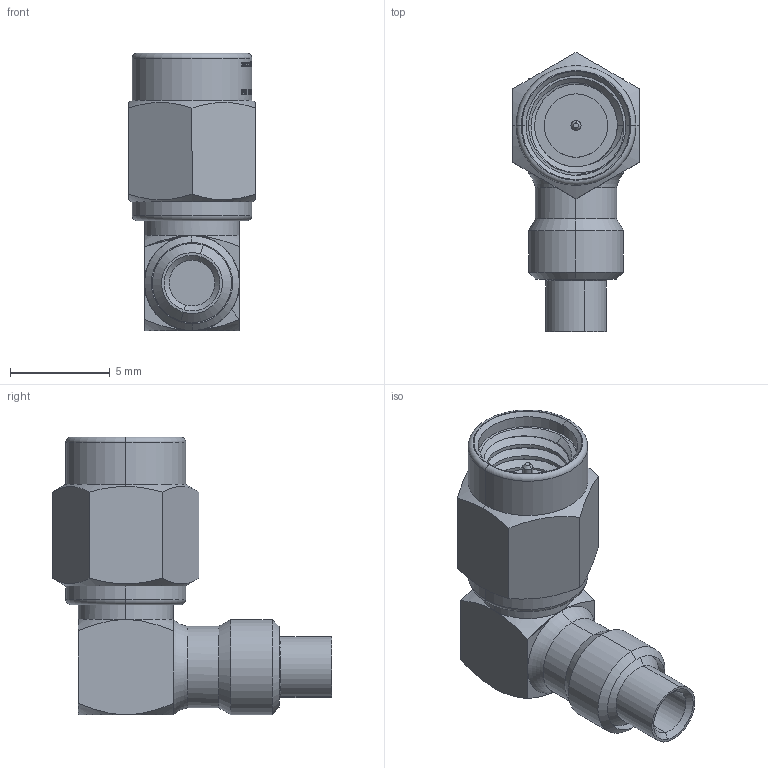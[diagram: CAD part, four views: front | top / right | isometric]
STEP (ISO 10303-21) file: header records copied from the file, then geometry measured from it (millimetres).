
FILE_DESCRIPTION (( 'STEP AP203' ), '1' );
FILE_NAME ('3705025K003-002.STEP', '2023-10-23T17:21:59', ( '' ), ( '' ), 'SwSTEP 2.0', 'SolidWorks 2022', '' );
FILE_SCHEMA (( 'CONFIG_CONTROL_DESIGN' ));
Length unit declared in the file: inch
Products named in the file (1): 3705025K003-002
Bounding box: 6.35 x 13.97 x 13.89 mm (x, y, z)
Volume: 393.3 mm3; surface area: 873.3 mm2
Topology: 1 solids, 6 shells, 636 faces, 1634 edges, 1067 vertices
Faces by surface type: bspline 285, plane 164, cylinder 124, cone 44, torus 19
Entity records: 24412 total; most frequent: CARTESIAN_POINT 11363, ORIENTED_EDGE 3268, DIRECTION 1696, EDGE_CURVE 1634, VERTEX_POINT 1067, B_SPLINE_CURVE_WITH_KNOTS 964, EDGE_LOOP 701, AXIS2_PLACEMENT_3D 692
